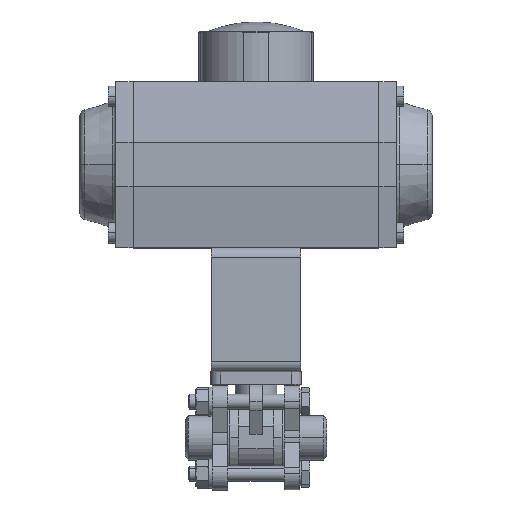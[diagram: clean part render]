
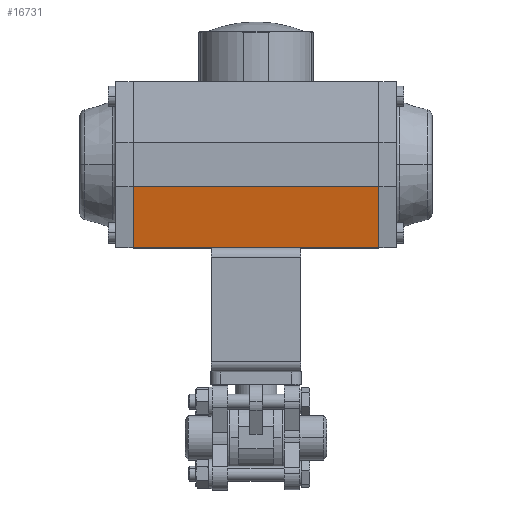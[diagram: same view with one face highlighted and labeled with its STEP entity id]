
A CAD part, top view. The second image highlights one B-rep face of the part: STEP entity #16731.
In plain terms, the highlighted planar face has unit normal (0, -0.161, 0.987) as drawn and (-0.987, -0.161, 0) by its records, which use the part's own axes.
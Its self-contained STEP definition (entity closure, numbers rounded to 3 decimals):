
#713 = AXIS2_PLACEMENT_3D ( 'NONE', #14435, #14441, #14442 ) ;
#4483 = CARTESIAN_POINT ( 'NONE',  ( -26., -33.5, -49.5 ) ) ;
#5182 = VERTEX_POINT ( 'NONE', #12248 ) ;
#5192 = VERTEX_POINT ( 'NONE', #12258 ) ;
#5194 = VERTEX_POINT ( 'NONE', #12260 ) ;
#6967 = EDGE_CURVE ( 'NONE', #10177, #5194, #9323, .T. ) ;
#6969 = EDGE_CURVE ( 'NONE', #5194, #5192, #9329, .T. ) ;
#6970 = EDGE_CURVE ( 'NONE', #5182, #5192, #9332, .T. ) ;
#6971 = EDGE_CURVE ( 'NONE', #10177, #5182, #9317, .T. ) ;
#7405 = VECTOR ( 'NONE', #9335, 1000. ) ;
#7407 = VECTOR ( 'NONE', #9331, 1000. ) ;
#7409 = VECTOR ( 'NONE', #9337, 1000. ) ;
#7411 = VECTOR ( 'NONE', #9326, 1000. ) ;
#7555 = EDGE_LOOP ( 'NONE', ( #15085, #15084, #15083, #15082 ) ) ;
#9317 = LINE ( 'NONE', #9336, #7409 ) ;
#9323 = LINE ( 'NONE', #9325, #7411 ) ;
#9325 = CARTESIAN_POINT ( 'NONE',  ( -26., -33.5, -49.5 ) ) ;
#9326 = DIRECTION ( 'NONE',  ( 0., 0., 1. ) ) ;
#9329 = LINE ( 'NONE', #9330, #7407 ) ;
#9330 = CARTESIAN_POINT ( 'NONE',  ( -26., -33.5, 49.5 ) ) ;
#9331 = DIRECTION ( 'NONE',  ( -0.161, 0.987, 0. ) ) ;
#9332 = LINE ( 'NONE', #9334, #7405 ) ;
#9334 = CARTESIAN_POINT ( 'NONE',  ( -30., -9., -49.5 ) ) ;
#9335 = DIRECTION ( 'NONE',  ( 0., 0., 1. ) ) ;
#9336 = CARTESIAN_POINT ( 'NONE',  ( -26., -33.5, -49.5 ) ) ;
#9337 = DIRECTION ( 'NONE',  ( -0.161, 0.987, 0. ) ) ;
#10177 = VERTEX_POINT ( 'NONE', #4483 ) ;
#12248 = CARTESIAN_POINT ( 'NONE',  ( -30., -9., -49.5 ) ) ;
#12258 = CARTESIAN_POINT ( 'NONE',  ( -30., -9., 49.5 ) ) ;
#12260 = CARTESIAN_POINT ( 'NONE',  ( -26., -33.5, 49.5 ) ) ;
#14433 = PLANE ( 'NONE',  #713 ) ;
#14435 = CARTESIAN_POINT ( 'NONE',  ( -26., -33.5, -49.5 ) ) ;
#14439 = FACE_OUTER_BOUND ( 'NONE', #7555, .T. ) ;
#14441 = DIRECTION ( 'NONE',  ( 0.987, 0.161, 0. ) ) ;
#14442 = DIRECTION ( 'NONE',  ( -0.161, 0.987, 0. ) ) ;
#15082 = ORIENTED_EDGE ( 'NONE', *, *, #6971, .F. ) ;
#15083 = ORIENTED_EDGE ( 'NONE', *, *, #6970, .F. ) ;
#15084 = ORIENTED_EDGE ( 'NONE', *, *, #6969, .T. ) ;
#15085 = ORIENTED_EDGE ( 'NONE', *, *, #6967, .T. ) ;
#16731 = ADVANCED_FACE ( 'NONE', ( #14439 ), #14433, .F. ) ;
